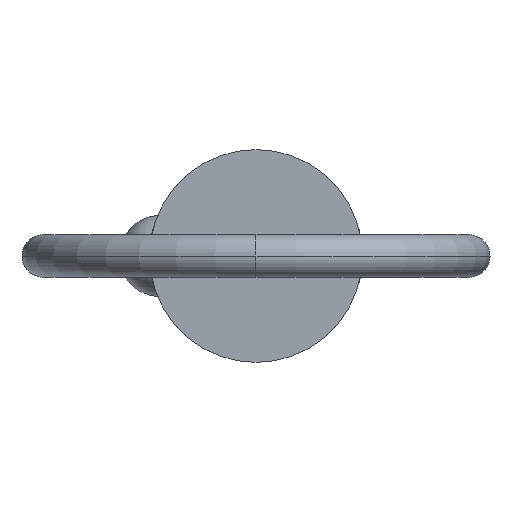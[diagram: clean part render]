
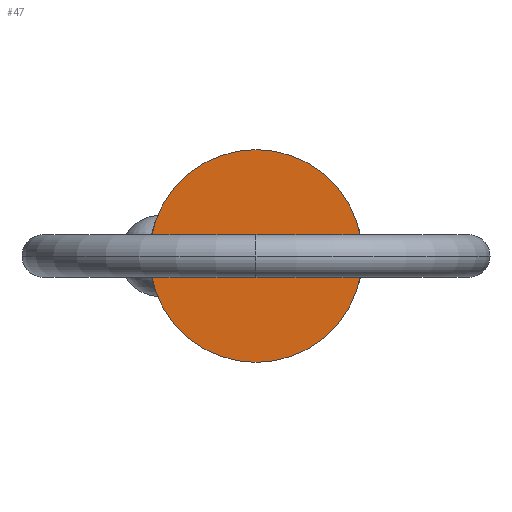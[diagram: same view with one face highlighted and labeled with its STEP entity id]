
A CAD part, left-side view. The second image highlights one B-rep face of the part: STEP entity #47.
In plain terms, the highlighted planar face has unit normal (-1, 0, 0).
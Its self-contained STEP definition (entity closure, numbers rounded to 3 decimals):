
#19 = DIRECTION ( 'NONE',  ( 1., 0., 0. ) ) ;
#38 = PLANE ( 'NONE',  #342 ) ;
#47 = ADVANCED_FACE ( 'NONE', ( #673 ), #38, .T. ) ;
#48 = DIRECTION ( 'NONE',  ( 1., 0., 0. ) ) ;
#59 = DIRECTION ( 'NONE',  ( 0., 0., -1. ) ) ;
#60 = VERTEX_POINT ( 'NONE', #482 ) ;
#71 = EDGE_CURVE ( 'NONE', #649, #60, #85, .T. ) ;
#85 = CIRCLE ( 'NONE', #564, 9.525 ) ;
#173 = AXIS2_PLACEMENT_3D ( 'NONE', #751, #19, #492 ) ;
#185 = DIRECTION ( 'NONE',  ( -1., 0., 0. ) ) ;
#208 = ORIENTED_EDGE ( 'NONE', *, *, #413, .F. ) ;
#295 = ORIENTED_EDGE ( 'NONE', *, *, #71, .F. ) ;
#342 = AXIS2_PLACEMENT_3D ( 'NONE', #468, #185, #678 ) ;
#413 = EDGE_CURVE ( 'NONE', #60, #649, #808, .T. ) ;
#468 = CARTESIAN_POINT ( 'NONE',  ( 0., 0., 0. ) ) ;
#482 = CARTESIAN_POINT ( 'NONE',  ( 0., 0., 9.525 ) ) ;
#492 = DIRECTION ( 'NONE',  ( 0., 0., -1. ) ) ;
#564 = AXIS2_PLACEMENT_3D ( 'NONE', #679, #48, #59 ) ;
#638 = EDGE_LOOP ( 'NONE', ( #295, #208 ) ) ;
#649 = VERTEX_POINT ( 'NONE', #896 ) ;
#673 = FACE_OUTER_BOUND ( 'NONE', #638, .T. ) ;
#678 = DIRECTION ( 'NONE',  ( 0., 0., 1. ) ) ;
#679 = CARTESIAN_POINT ( 'NONE',  ( 0., 0., 0. ) ) ;
#751 = CARTESIAN_POINT ( 'NONE',  ( 0., 0., 0. ) ) ;
#808 = CIRCLE ( 'NONE', #173, 9.525 ) ;
#896 = CARTESIAN_POINT ( 'NONE',  ( 0., 0., -9.525 ) ) ;
